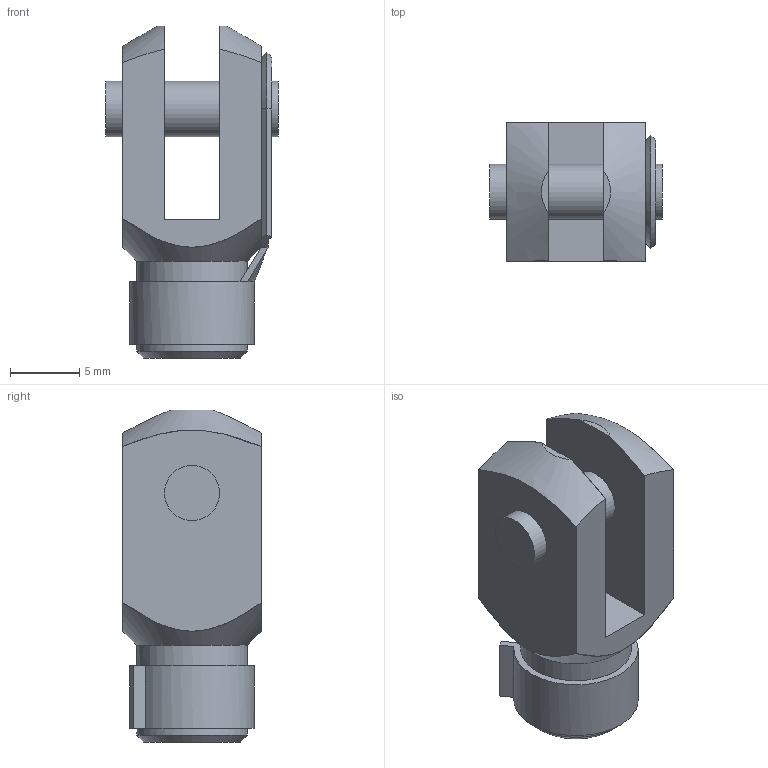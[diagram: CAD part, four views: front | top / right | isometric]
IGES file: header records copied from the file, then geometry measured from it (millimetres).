
Global section: file name: No Iges File Name specified; native system: AutoDesk Inventor R6.0; preprocessor: AutoDesk Inventor Iges Exporter R6.0; author: No Author specified; organization: No Organization specified; date: 20030418.091323; units: millimetre
Bounding box: 12.5 x 10 x 24 mm (x, y, z)
Surface area: 1367.6 mm2 (no closed solid volume)
Topology: 0 solids, 0 shells, 54 faces, 264 edges, 255 vertices
Faces by surface type: plane 35, revolution 14, bspline 5
